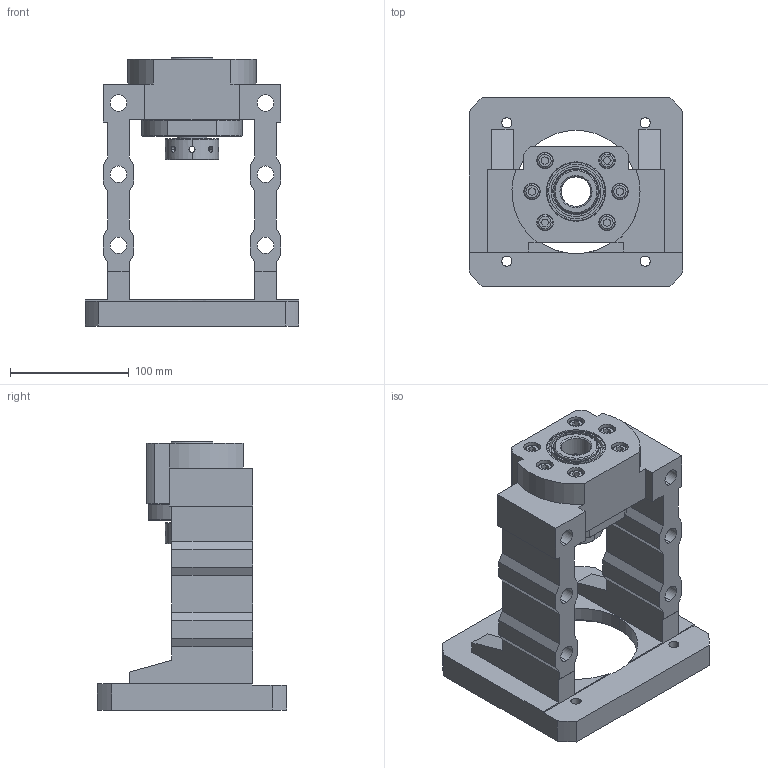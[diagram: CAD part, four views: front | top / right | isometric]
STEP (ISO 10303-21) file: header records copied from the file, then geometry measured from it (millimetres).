
FILE_DESCRIPTION (( 'STEP AP203' ), '1' );
FILE_NAME ('MBCS25-I²Õ¦X¥ó.STEP', '2024-09-03T05:44:14', ( '' ), ( '' ), 'SwSTEP 2.0', 'SolidWorks 2018', '' );
FILE_SCHEMA (( 'CONFIG_CONTROL_DESIGN' ));
Length unit declared in the file: millimetre
Products named in the file (1): MBCS25-I組合件
Bounding box: 180 x 160 x 226 mm (x, y, z)
Surface area: 206064.7 mm2 (no closed solid volume)
Topology: 0 solids, 21 shells, 340 faces, 950 edges, 627 vertices
Faces by surface type: plane 137, cylinder 114, cone 60, torus 26, bspline 3
Entity records: 16553 total; most frequent: CARTESIAN_POINT 7724, DIRECTION 1866, ORIENTED_EDGE 1690, EDGE_CURVE 942, AXIS2_PLACEMENT_3D 699, VERTEX_POINT 627, LINE 468, VECTOR 468
